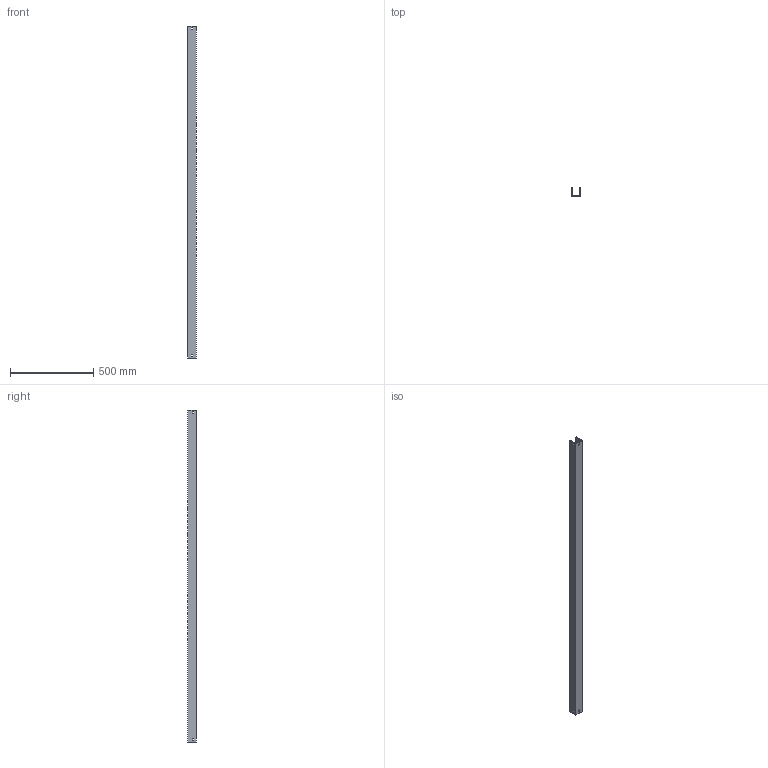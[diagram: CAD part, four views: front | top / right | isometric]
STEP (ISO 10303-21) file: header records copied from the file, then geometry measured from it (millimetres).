
FILE_DESCRIPTION (( 'STEP AP214' ), '1' );
FILE_NAME ('03F2B050.step', '2025-02-21T13:23:24', ( '' ), ( '' ), 'SwSTEP 2.0', 'SolidWorks 2023', '' );
FILE_SCHEMA (( 'AUTOMOTIVE_DESIGN' ));
Length unit declared in the file: millimetre
Products named in the file (1): 03F2B050
Bounding box: 54 x 52 x 2000 mm (x, y, z)
Volume: 1055610.5 mm3; surface area: 618956 mm2
Topology: 1 solids, 1 shells, 34 faces, 96 edges, 64 vertices
Faces by surface type: plane 34
Entity records: 1127 total; most frequent: CARTESIAN_POINT 195, ORIENTED_EDGE 192, DIRECTION 166, LINE 96, EDGE_CURVE 96, VECTOR 96, VERTEX_POINT 64, EDGE_LOOP 46
